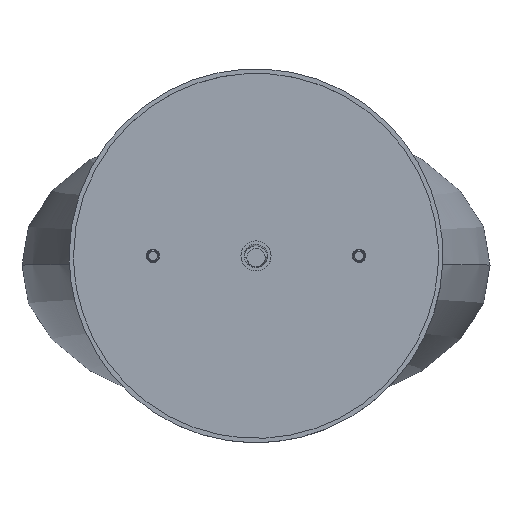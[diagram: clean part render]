
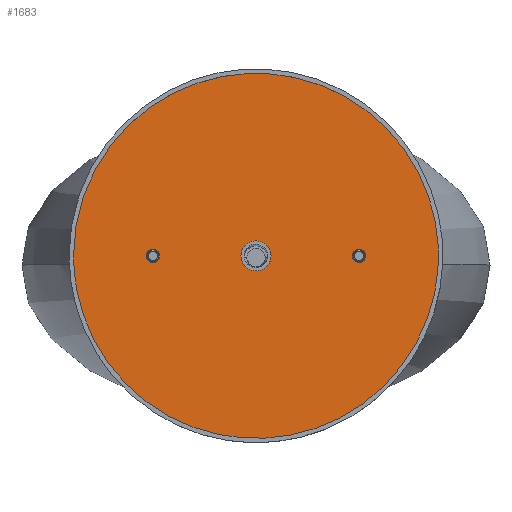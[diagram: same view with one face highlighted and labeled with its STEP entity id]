
A CAD part, top view. The second image highlights one B-rep face of the part: STEP entity #1683.
In plain terms, the highlighted free-form (B-spline) face has degree [1, 2] with [2, 9] control points.
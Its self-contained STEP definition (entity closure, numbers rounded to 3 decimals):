
#200=B_SPLINE_CURVE_WITH_KNOTS('',1,(#27081,#27082),.UNSPECIFIED.,.F.,.F.,
(2,2),(78.,102.75),.UNSPECIFIED.);
#205=B_SPLINE_CURVE_WITH_KNOTS('',1,(#27149,#27150),.UNSPECIFIED.,.F.,.F.,
(2,2),(107.25,134.9),.UNSPECIFIED.);
#1334=FACE_BOUND('',#2959,.T.);
#1683=ADVANCED_FACE('',(#2319,#1334),#10278,.T.);
#2319=FACE_OUTER_BOUND('',#2958,.T.);
#2958=EDGE_LOOP('',(#3982,#3983,#3984,#3985,#3986,#3987,#3988,#3989,#3990));
#2959=EDGE_LOOP('',(#3991));
#3982=ORIENTED_EDGE('',*,*,#7053,.F.);
#3983=ORIENTED_EDGE('',*,*,#7060,.F.);
#3984=ORIENTED_EDGE('',*,*,#7053,.T.);
#3985=ORIENTED_EDGE('',*,*,#7075,.F.);
#3986=ORIENTED_EDGE('',*,*,#7067,.T.);
#3987=ORIENTED_EDGE('',*,*,#7061,.F.);
#3988=ORIENTED_EDGE('',*,*,#7062,.F.);
#3989=ORIENTED_EDGE('',*,*,#7067,.F.);
#3990=ORIENTED_EDGE('',*,*,#7076,.F.);
#3991=ORIENTED_EDGE('',*,*,#7070,.T.);
#7053=EDGE_CURVE('',#9041,#9050,#200,.T.);
#7060=EDGE_CURVE('',#9041,#9041,#8532,.T.);
#7061=EDGE_CURVE('',#9045,#9046,#8533,.T.);
#7062=EDGE_CURVE('',#9046,#9045,#8534,.T.);
#7067=EDGE_CURVE('',#9049,#9046,#205,.T.);
#7070=EDGE_CURVE('',#9051,#9051,#8539,.T.);
#7075=EDGE_CURVE('',#9049,#9050,#8543,.T.);
#7076=EDGE_CURVE('',#9050,#9049,#8544,.T.);
#8532=(
BOUNDED_CURVE()
B_SPLINE_CURVE(2,(#27116,#27117,#27118,#27119,#27120,#27121,#27122,#27123,
#27124),.UNSPECIFIED.,.T.,.F.)
B_SPLINE_CURVE_WITH_KNOTS((3,2,2,2,3),(0.,99.746,199.491,
299.237,398.982),.UNSPECIFIED.)
CURVE()
GEOMETRIC_REPRESENTATION_ITEM()
RATIONAL_B_SPLINE_CURVE((1.,0.707,1.,0.707,1.,0.707,
1.,0.707,1.))
REPRESENTATION_ITEM('')
);
#8533=(
BOUNDED_CURVE()
B_SPLINE_CURVE(2,(#27125,#27126,#27127,#27128,#27129),.UNSPECIFIED.,.F.,
 .F.)
B_SPLINE_CURVE_WITH_KNOTS((3,2,3),(0.,8.011,16.022),
 .UNSPECIFIED.)
CURVE()
GEOMETRIC_REPRESENTATION_ITEM()
RATIONAL_B_SPLINE_CURVE((1.,0.707,1.,0.707,1.))
REPRESENTATION_ITEM('')
);
#8534=(
BOUNDED_CURVE()
B_SPLINE_CURVE(2,(#27130,#27131,#27132,#27133,#27134),.UNSPECIFIED.,.F.,
 .F.)
B_SPLINE_CURVE_WITH_KNOTS((3,2,3),(16.022,24.033,32.044),
 .UNSPECIFIED.)
CURVE()
GEOMETRIC_REPRESENTATION_ITEM()
RATIONAL_B_SPLINE_CURVE((1.,0.707,1.,0.707,1.))
REPRESENTATION_ITEM('')
);
#8539=(
BOUNDED_CURVE()
B_SPLINE_CURVE(2,(#27162,#27163,#27164,#27165,#27166,#27167,#27168,#27169,
#27170),.UNSPECIFIED.,.T.,.F.)
B_SPLINE_CURVE_WITH_KNOTS((3,2,2,2,3),(-31.574,-23.681,
-15.787,-7.894,0.),.UNSPECIFIED.)
CURVE()
GEOMETRIC_REPRESENTATION_ITEM()
RATIONAL_B_SPLINE_CURVE((1.,0.707,1.,0.707,1.,0.707,
1.,0.707,1.))
REPRESENTATION_ITEM('')
);
#8543=(
BOUNDED_CURVE()
B_SPLINE_CURVE(2,(#27193,#27194,#27195,#27196,#27197),.UNSPECIFIED.,.F.,
 .F.)
B_SPLINE_CURVE_WITH_KNOTS((3,2,3),(-31.574,-23.681,
-15.787),.UNSPECIFIED.)
CURVE()
GEOMETRIC_REPRESENTATION_ITEM()
RATIONAL_B_SPLINE_CURVE((1.,0.707,1.,0.707,1.))
REPRESENTATION_ITEM('')
);
#8544=(
BOUNDED_CURVE()
B_SPLINE_CURVE(2,(#27198,#27199,#27200,#27201,#27202),.UNSPECIFIED.,.F.,
 .F.)
B_SPLINE_CURVE_WITH_KNOTS((3,2,3),(-15.787,-7.894,
0.),.UNSPECIFIED.)
CURVE()
GEOMETRIC_REPRESENTATION_ITEM()
RATIONAL_B_SPLINE_CURVE((1.,0.707,1.,0.707,1.))
REPRESENTATION_ITEM('')
);
#9041=VERTEX_POINT('',#27065);
#9045=VERTEX_POINT('',#27069);
#9046=VERTEX_POINT('',#27070);
#9049=VERTEX_POINT('',#27073);
#9050=VERTEX_POINT('',#27074);
#9051=VERTEX_POINT('',#27075);
#10278=(
BOUNDED_SURFACE()
B_SPLINE_SURFACE(1,2,((#26970,#26971,#26972,#26973,#26974,#26975,#26976,
#26977,#26978),(#26979,#26980,#26981,#26982,#26983,#26984,#26985,#26986,
#26987)),.UNSPECIFIED.,.F.,.F.,.F.)
B_SPLINE_SURFACE_WITH_KNOTS((2,2),(3,2,2,2,3),(78.,140.),(0.,99.746,
199.491,299.237,398.982),.UNSPECIFIED.)
GEOMETRIC_REPRESENTATION_ITEM()
RATIONAL_B_SPLINE_SURFACE(((1.,0.707,1.,0.707,1.,
0.707,1.,0.707,1.),(1.,0.707,1.,0.707,
1.,0.707,1.,0.707,1.)))
REPRESENTATION_ITEM('')
SURFACE()
);
#26970=CARTESIAN_POINT('',(-62.,0.,-5.011));
#26971=CARTESIAN_POINT('',(-62.,62.,-5.011));
#26972=CARTESIAN_POINT('',(0.,62.,-5.011));
#26973=CARTESIAN_POINT('',(62.,62.,-5.011));
#26974=CARTESIAN_POINT('',(62.,0.,-5.011));
#26975=CARTESIAN_POINT('',(62.,-62.,-5.011));
#26976=CARTESIAN_POINT('',(0.,-62.,-5.011));
#26977=CARTESIAN_POINT('',(-62.,-62.,-5.011));
#26978=CARTESIAN_POINT('',(-62.,0.,-5.011));
#26979=CARTESIAN_POINT('',(0.,0.,-5.011));
#26980=CARTESIAN_POINT('',(0.,0.,-5.011));
#26981=CARTESIAN_POINT('',(0.,0.,-5.011));
#26982=CARTESIAN_POINT('',(0.,0.,-5.011));
#26983=CARTESIAN_POINT('',(0.,0.,-5.011));
#26984=CARTESIAN_POINT('',(0.,0.,-5.011));
#26985=CARTESIAN_POINT('',(0.,0.,-5.011));
#26986=CARTESIAN_POINT('',(0.,0.,-5.011));
#26987=CARTESIAN_POINT('',(0.,0.,-5.011));
#27065=CARTESIAN_POINT('',(-62.,0.,-5.011));
#27069=CARTESIAN_POINT('',(5.1,0.,-5.011));
#27070=CARTESIAN_POINT('',(-5.1,0.,-5.011));
#27073=CARTESIAN_POINT('',(-32.75,0.,-5.011));
#27074=CARTESIAN_POINT('',(-37.25,0.,-5.011));
#27075=CARTESIAN_POINT('',(32.75,0.,-5.011));
#27081=CARTESIAN_POINT('',(-62.,0.,-5.011));
#27082=CARTESIAN_POINT('',(-37.25,0.,-5.011));
#27116=CARTESIAN_POINT('',(-62.,0.,-5.011));
#27117=CARTESIAN_POINT('',(-62.,62.,-5.011));
#27118=CARTESIAN_POINT('',(0.,62.,-5.011));
#27119=CARTESIAN_POINT('',(62.,62.,-5.011));
#27120=CARTESIAN_POINT('',(62.,0.,-5.011));
#27121=CARTESIAN_POINT('',(62.,-62.,-5.011));
#27122=CARTESIAN_POINT('',(0.,-62.,-5.011));
#27123=CARTESIAN_POINT('',(-62.,-62.,-5.011));
#27124=CARTESIAN_POINT('',(-62.,0.,-5.011));
#27125=CARTESIAN_POINT('',(5.1,0.,-5.011));
#27126=CARTESIAN_POINT('',(5.1,5.1,-5.011));
#27127=CARTESIAN_POINT('',(0.,5.1,-5.011));
#27128=CARTESIAN_POINT('',(-5.1,5.1,-5.011));
#27129=CARTESIAN_POINT('',(-5.1,0.,-5.011));
#27130=CARTESIAN_POINT('',(-5.1,0.,-5.011));
#27131=CARTESIAN_POINT('',(-5.1,-5.1,-5.011));
#27132=CARTESIAN_POINT('',(0.,-5.1,-5.011));
#27133=CARTESIAN_POINT('',(5.1,-5.1,-5.011));
#27134=CARTESIAN_POINT('',(5.1,0.,-5.011));
#27149=CARTESIAN_POINT('',(-32.75,0.,-5.011));
#27150=CARTESIAN_POINT('',(-5.1,0.,-5.011));
#27162=CARTESIAN_POINT('',(32.75,0.,-5.011));
#27163=CARTESIAN_POINT('',(32.75,2.25,-5.011));
#27164=CARTESIAN_POINT('',(35.,2.25,-5.011));
#27165=CARTESIAN_POINT('',(37.25,2.25,-5.011));
#27166=CARTESIAN_POINT('',(37.25,0.,-5.011));
#27167=CARTESIAN_POINT('',(37.25,-2.25,-5.011));
#27168=CARTESIAN_POINT('',(35.,-2.25,-5.011));
#27169=CARTESIAN_POINT('',(32.75,-2.25,-5.011));
#27170=CARTESIAN_POINT('',(32.75,0.,-5.011));
#27193=CARTESIAN_POINT('',(-32.75,0.,-5.011));
#27194=CARTESIAN_POINT('',(-32.75,2.25,-5.011));
#27195=CARTESIAN_POINT('',(-35.,2.25,-5.011));
#27196=CARTESIAN_POINT('',(-37.25,2.25,-5.011));
#27197=CARTESIAN_POINT('',(-37.25,0.,-5.011));
#27198=CARTESIAN_POINT('',(-37.25,0.,-5.011));
#27199=CARTESIAN_POINT('',(-37.25,-2.25,-5.011));
#27200=CARTESIAN_POINT('',(-35.,-2.25,-5.011));
#27201=CARTESIAN_POINT('',(-32.75,-2.25,-5.011));
#27202=CARTESIAN_POINT('',(-32.75,0.,-5.011));
